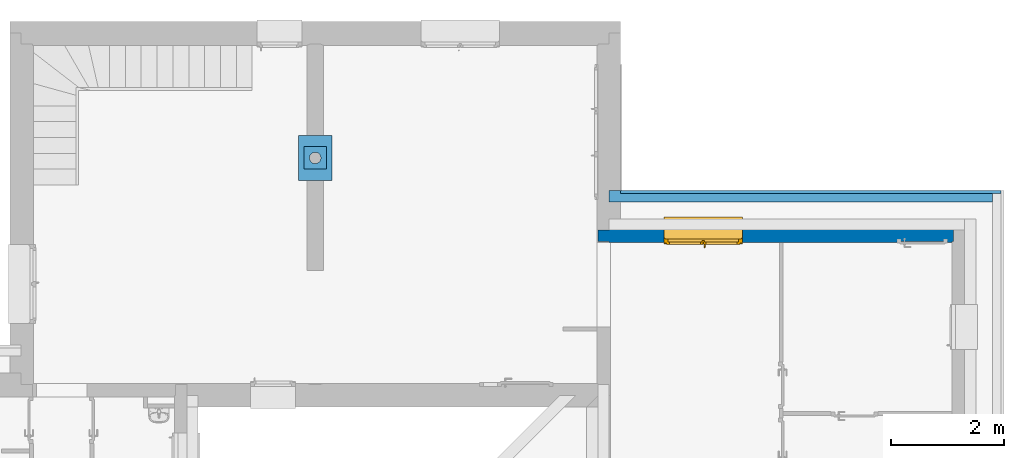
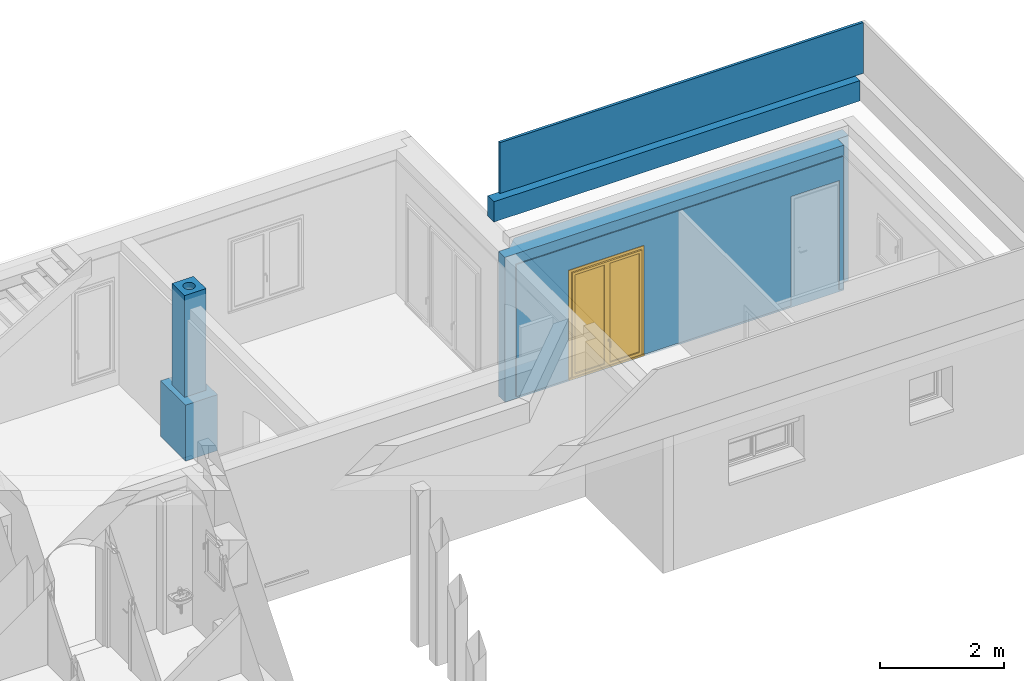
# One storey, part 5 of 16: 3 walls, 2 chimneys, 1 door, 2 openings.
"""IFC4 building model written with IfcOpenShell, lengths in metres."""

from ifc_helpers import new_model, entity, si_unit, converted_unit, frame, frame_2d, origin, origin_with_axes, place, context, subcontext, project, spatial, polyline, rectangle, outline, extrude, clip, bounded_halfspace, closed_shell, open_shell, surface_model, source, transform, mapped, material, layer, layer_set, layer_usage, type_object, element, fill, save


model = new_model("IFC4")

# Units and contexts
model_context = context("Model", 3, precision=1e-05, world=origin())
body_context = subcontext(model_context, "Body", "Model", "MODEL_VIEW")
ifc_project = project(units=[si_unit("LENGTHUNIT", "METRE"), si_unit("AREAUNIT", "SQUARE_METRE"), si_unit("VOLUMEUNIT", "CUBIC_METRE"), si_unit("MASSUNIT", "GRAM", prefix="KILO"), converted_unit("PLANEANGLEUNIT", "DEGREE", entity("IfcPlaneAngleMeasure", 0.0174532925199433), si_unit("PLANEANGLEUNIT", "RADIAN"), dimensions=[0, 0, 0, 0, 0, 0, 0])], contexts=[model_context])

# Building, storey
building_placement = place(None, origin())
building = spatial("IfcBuilding", under=ifc_project, at=building_placement, Name="Projet de Construction", CompositionType="ELEMENT")
storey_placement = place(building_placement, frame((0.0, 0.0, -0.05)))
storey = spatial("IfcBuildingStorey", under=building, at=storey_placement, Name="RDC", CompositionType="ELEMENT", Elevation=-0.05)

# Wall, openings, door
ifc_material_1 = material()
ifc_layer_1 = layer(ifc_material_1, 0.200000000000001)
ifc_material_2 = material()
ifc_layer_2 = layer(ifc_material_2, 0.2)
ifc_material_3 = material()
ifc_layer_3 = layer(ifc_material_3, 0.02)
ifc_layer_set_1 = layer_set([ifc_layer_1, ifc_layer_2, ifc_layer_3])
ifc_layer_usage_1 = layer_usage(ifc_layer_set_1, "AXIS2", "POSITIVE", 0.0)
wall_1_placement = place(storey_placement, frame((9.6640625, 4.63979166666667, 0.0), z_axis=(0.0, 0.0, 1.0), x_axis=(-1.0, 1.48853470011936e-16, 0.0)))
wall_1 = element("IfcWall", 1, at=wall_1_placement, inside=storey, material=ifc_layer_usage_1, context=body_context, shape_type="Clipping", body=[
    clip(clip(extrude(outline(polyline([(-6.51, -0.420000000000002), (-0.400000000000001, -0.420000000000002), (-0.2, -0.220000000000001), (3.2747763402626e-17, -0.220000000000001), (2.97706940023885e-18, -0.0200000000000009), (-0.2, -0.0200000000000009), (-0.2, -9.39265395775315e-16), (-6.29, -9.36288326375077e-16), (-6.29, -0.0200000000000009), (-6.31, -0.0200000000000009), (-6.31, -0.220000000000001), (-6.51, -0.220000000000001), (-6.51, -0.420000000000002)])), frame((6.51, 0.420000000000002, 0.0), z_axis=(0.0, 0.0, 1.0), x_axis=(1.0, 0.0, 0.0)), (0.0, 0.0, 1.0), 2.85), bounded_halfspace(frame((3.265, 0.410000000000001, 0.05), z_axis=(0.0, 0.0, 1.0), x_axis=(1.48853470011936e-16, -1.0, 0.0)), True, origin_with_axes(), polyline([(0.22, 0.42), (0.22, 0.4), (6.31, 0.4), (6.31, 0.42), (0.22, 0.42)]))), bounded_halfspace(frame((3.265, 0.410000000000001, 2.65), z_axis=(0.0, 0.0, -1.0), x_axis=(1.0, -4.88845550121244e-19, 0.0)), True, origin_with_axes(), polyline([(0.22, 0.4), (6.31, 0.4), (6.31, 0.42), (0.22, 0.42), (0.22, 0.4)]))),
])
opening_1_placement = place(wall_1_placement, frame((5.34, 0.200000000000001, 0.05), z_axis=(0.0, -1.0, 0.0), x_axis=(0.0, 0.0, 1.0)))
opening_1 = element("IfcOpeningStandardCase", 2, at=opening_1_placement, cuts=wall_1, Name="Baie de porte", PredefinedType="OPENING", context=body_context, shape_type="SweptSolid", body=[
    extrude(outline(polyline([(0.0, 1.4), (2.15, 1.4), (2.15, 0.0), (0.0, 0.0), (0.0, 1.4)])), origin_with_axes(), (0.0, 0.0, 1.0), 0.200000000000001),
    extrude(outline(polyline([(0.0, 1.4), (2.15, 1.4), (2.15, 0.0), (0.0, 0.0), (0.0, 1.4)])), frame((0.0, 0.0, -0.2), z_axis=(0.0, 0.0, 1.0), x_axis=(1.0, 0.0, 0.0)), (0.0, 0.0, 1.0), 0.2),
    extrude(outline(polyline([(0.0, 1.4), (2.15, 1.4), (2.15, 0.0), (0.0, 0.0), (0.0, 1.4)])), frame((0.0, 0.0, -0.22), z_axis=(0.0, 0.0, 1.0), x_axis=(1.0, 0.0, 0.0)), (0.0, 0.0, 1.0), 0.02),
])
opening_2_placement = place(wall_1_placement, frame((1.2, 0.200000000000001, 0.05), z_axis=(0.0, -1.0, 0.0), x_axis=(0.0, 0.0, 1.0)))
element("IfcOpeningStandardCase", 3, at=opening_2_placement, cuts=wall_1, Name="Baie de porte", PredefinedType="OPENING", context=body_context, shape_type="SweptSolid", body=[
    extrude(outline(polyline([(0.0, 0.9), (2.15, 0.9), (2.15, 0.0), (0.0, 0.0), (0.0, 0.9)])), origin_with_axes(), (0.0, 0.0, 1.0), 0.200000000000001),
    extrude(outline(polyline([(0.0, 0.9), (2.15, 0.9), (2.15, 0.0), (0.0, 0.0), (0.0, 0.9)])), frame((0.0, 0.0, -0.2), z_axis=(0.0, 0.0, 1.0), x_axis=(1.0, 0.0, 0.0)), (0.0, 0.0, 1.0), 0.2),
    extrude(outline(polyline([(0.0, 0.9), (2.15, 0.9), (2.15, 0.0), (0.0, 0.0), (0.0, 0.9)])), frame((0.0, 0.0, -0.22), z_axis=(0.0, 0.0, 1.0), x_axis=(1.0, 0.0, 0.0)), (0.0, 0.0, 1.0), 0.02),
])
ifc_material_4 = material()
door_type = type_object("IfcDoorType", Name="3 vantaux blanc, monté", OperationType="NOTDEFINED", ParameterTakesPrecedence=False, PredefinedType="DOOR")
shared_shape = source(origin_with_axes(), body_context, "Body", "SurfaceModel", [
    surface_model("IfcShellBasedSurfaceModel", [(0.0, 0.0199999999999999, 0.03), (0.0, 0.39, 0.03), (-3.67394039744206e-18, 0.39, 0.06), (-2.44929359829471e-18, 0.0, 0.05), (3.67394039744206e-18, 0.0, 0.0), (3.67394039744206e-18, 0.0199999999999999, 0.0), (1.4, 0.39, 0.0300000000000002), (1.4, 0.0199999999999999, 0.0300000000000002), (1.4, 0.0199999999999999, 1.70530256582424e-16), (1.4, 0.0, 1.70530256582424e-16), (1.4, 0.0, 0.0500000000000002), (1.4, 0.39, 0.0600000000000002)], [closed_shell([[[0, 1, 2, 3, 4, 5]], [[6, 7, 8, 9, 10, 11]], [[1, 0, 7, 6]], [[2, 1, 6, 11]], [[3, 2, 11, 10]], [[4, 3, 10, 9]], [[5, 4, 9, 8]], [[0, 5, 8, 7]]], orient=[[False], [False], [False], [False], [False], [False], [False], [False]])]),
    surface_model("IfcShellBasedSurfaceModel", [(0.0, 0.48, 0.03), (-3.67394039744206e-18, 0.48, 0.06), (-3.67394039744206e-18, 0.43, 0.06), (0.0, 0.43, 0.03), (1.4, 0.43, 0.0300000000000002), (1.4, 0.43, 0.0600000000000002), (1.4, 0.48, 0.0600000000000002), (1.4, 0.48, 0.0300000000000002)], [closed_shell([[[0, 1, 2, 3]], [[4, 5, 6, 7]], [[3, 4, 7, 0]], [[2, 5, 4, 3]], [[1, 6, 5, 2]], [[0, 7, 6, 1]]], orient=[[False], [False], [False], [False], [False], [False]])]),
    surface_model("IfcShellBasedSurfaceModel", [(0.0, 0.39, 2.18), (0.0, 0.39, 1.98), (1.4, 0.39, 1.98), (1.4, 0.39, 2.18), (0.0, 0.19, 1.98), (0.0, 0.19, 2.18), (1.4, 0.19, 2.18), (1.4, 0.19, 1.98)], [closed_shell([[[0, 1, 2, 3]], [[4, 5, 6, 7]], [[1, 0, 5, 4]], [[2, 1, 4, 7]], [[3, 2, 7, 6]], [[0, 3, 6, 5]]], orient=[[False], [False], [False], [False], [False], [False]])]),
    surface_model("IfcShellBasedSurfaceModel", [(0.0, 0.39, 1.98), (0.0, 0.39, 0.03), (0.02, 0.39, 0.03), (0.02, 0.39, 1.98), (0.0, 0.37, 0.03), (0.0, 0.37, 1.98), (0.02, 0.37, 1.98), (0.02, 0.37, 0.03)], [closed_shell([[[0, 1, 2, 3]], [[4, 5, 6, 7]], [[1, 0, 5, 4]], [[2, 1, 4, 7]], [[3, 2, 7, 6]], [[0, 3, 6, 5]]], orient=[[False], [False], [False], [False], [False], [False]])]),
    surface_model("IfcShellBasedSurfaceModel", [(1.38, 0.39, 1.98), (1.38, 0.39, 0.03), (1.4, 0.39, 0.03), (1.4, 0.39, 1.98), (1.38, 0.37, 0.03), (1.38, 0.37, 1.98), (1.4, 0.37, 1.98), (1.4, 0.37, 0.03)], [closed_shell([[[0, 1, 2, 3]], [[4, 5, 6, 7]], [[1, 0, 5, 4]], [[2, 1, 4, 7]], [[3, 2, 7, 6]], [[0, 3, 6, 5]]], orient=[[False], [False], [False], [False], [False], [False]])]),
    surface_model("IfcShellBasedSurfaceModel", [(0.01, 0.385, 1.975), (0.01, 0.385, 1.925), (1.39, 0.385, 1.925), (1.39, 0.385, 1.975), (0.01, 0.375, 1.925), (0.01, 0.375, 1.975), (1.39, 0.375, 1.975), (1.39, 0.375, 1.925)], [closed_shell([[[0, 1, 2, 3]], [[4, 5, 6, 7]], [[1, 0, 5, 4]], [[2, 1, 4, 7]], [[3, 2, 7, 6]], [[0, 3, 6, 5]]], orient=[[False], [False], [False], [False], [False], [False]])]),
    surface_model("IfcShellBasedSurfaceModel", [(0.01, 0.385, 1.92), (0.01, 0.385, 1.87), (1.39, 0.385, 1.87), (1.39, 0.385, 1.92), (0.01, 0.375, 1.87), (0.01, 0.375, 1.92), (1.39, 0.375, 1.92), (1.39, 0.375, 1.87)], [closed_shell([[[0, 1, 2, 3]], [[4, 5, 6, 7]], [[1, 0, 5, 4]], [[2, 1, 4, 7]], [[3, 2, 7, 6]], [[0, 3, 6, 5]]], orient=[[False], [False], [False], [False], [False], [False]])]),
    surface_model("IfcShellBasedSurfaceModel", [(0.01, 0.385, 1.865), (0.01, 0.385, 1.815), (1.39, 0.385, 1.815), (1.39, 0.385, 1.865), (0.01, 0.375, 1.815), (0.01, 0.375, 1.865), (1.39, 0.375, 1.865), (1.39, 0.375, 1.815)], [closed_shell([[[0, 1, 2, 3]], [[4, 5, 6, 7]], [[1, 0, 5, 4]], [[2, 1, 4, 7]], [[3, 2, 7, 6]], [[0, 3, 6, 5]]], orient=[[False], [False], [False], [False], [False], [False]])]),
    surface_model("IfcShellBasedSurfaceModel", [(0.01, 0.385, 1.81), (0.01, 0.385, 1.76), (1.39, 0.385, 1.76), (1.39, 0.385, 1.81), (0.01, 0.375, 1.76), (0.01, 0.375, 1.81), (1.39, 0.375, 1.81), (1.39, 0.375, 1.76)], [closed_shell([[[0, 1, 2, 3]], [[4, 5, 6, 7]], [[1, 0, 5, 4]], [[2, 1, 4, 7]], [[3, 2, 7, 6]], [[0, 3, 6, 5]]], orient=[[False], [False], [False], [False], [False], [False]])]),
    surface_model("IfcShellBasedSurfaceModel", [(0.01, 0.385, 1.755), (0.01, 0.385, 1.705), (1.39, 0.385, 1.705), (1.39, 0.385, 1.755), (0.01, 0.375, 1.705), (0.01, 0.375, 1.755), (1.39, 0.375, 1.755), (1.39, 0.375, 1.705)], [closed_shell([[[0, 1, 2, 3]], [[4, 5, 6, 7]], [[1, 0, 5, 4]], [[2, 1, 4, 7]], [[3, 2, 7, 6]], [[0, 3, 6, 5]]], orient=[[False], [False], [False], [False], [False], [False]])]),
    surface_model("IfcShellBasedSurfaceModel", [(0.01, 0.385, 1.7), (0.01, 0.385, 1.65), (1.39, 0.385, 1.65), (1.39, 0.385, 1.7), (0.01, 0.375, 1.65), (0.01, 0.375, 1.7), (1.39, 0.375, 1.7), (1.39, 0.375, 1.65)], [closed_shell([[[0, 1, 2, 3]], [[4, 5, 6, 7]], [[1, 0, 5, 4]], [[2, 1, 4, 7]], [[3, 2, 7, 6]], [[0, 3, 6, 5]]], orient=[[False], [False], [False], [False], [False], [False]])]),
    surface_model("IfcShellBasedSurfaceModel", [(0.01, 0.385, 1.645), (0.01, 0.385, 1.595), (1.39, 0.385, 1.595), (1.39, 0.385, 1.645), (0.01, 0.375, 1.595), (0.01, 0.375, 1.645), (1.39, 0.375, 1.645), (1.39, 0.375, 1.595)], [closed_shell([[[0, 1, 2, 3]], [[4, 5, 6, 7]], [[1, 0, 5, 4]], [[2, 1, 4, 7]], [[3, 2, 7, 6]], [[0, 3, 6, 5]]], orient=[[False], [False], [False], [False], [False], [False]])]),
    surface_model("IfcShellBasedSurfaceModel", [(0.01, 0.385, 1.59), (0.01, 0.385, 1.54), (1.39, 0.385, 1.54), (1.39, 0.385, 1.59), (0.01, 0.375, 1.54), (0.01, 0.375, 1.59), (1.39, 0.375, 1.59), (1.39, 0.375, 1.54)], [closed_shell([[[0, 1, 2, 3]], [[4, 5, 6, 7]], [[1, 0, 5, 4]], [[2, 1, 4, 7]], [[3, 2, 7, 6]], [[0, 3, 6, 5]]], orient=[[False], [False], [False], [False], [False], [False]])]),
    surface_model("IfcShellBasedSurfaceModel", [(0.01, 0.385, 1.535), (0.01, 0.385, 1.485), (1.39, 0.385, 1.485), (1.39, 0.385, 1.535), (0.01, 0.375, 1.485), (0.01, 0.375, 1.535), (1.39, 0.375, 1.535), (1.39, 0.375, 1.485)], [closed_shell([[[0, 1, 2, 3]], [[4, 5, 6, 7]], [[1, 0, 5, 4]], [[2, 1, 4, 7]], [[3, 2, 7, 6]], [[0, 3, 6, 5]]], orient=[[False], [False], [False], [False], [False], [False]])]),
    surface_model("IfcShellBasedSurfaceModel", [(0.01, 0.385, 1.48), (0.01, 0.385, 1.43), (1.39, 0.385, 1.43), (1.39, 0.385, 1.48), (0.01, 0.375, 1.43), (0.01, 0.375, 1.48), (1.39, 0.375, 1.48), (1.39, 0.375, 1.43)], [closed_shell([[[0, 1, 2, 3]], [[4, 5, 6, 7]], [[1, 0, 5, 4]], [[2, 1, 4, 7]], [[3, 2, 7, 6]], [[0, 3, 6, 5]]], orient=[[False], [False], [False], [False], [False], [False]])]),
    surface_model("IfcShellBasedSurfaceModel", [(0.0, 0.46, 2.18), (0.0, 0.46, 0.03), (0.07, 0.46, 0.03), (0.07, 0.46, 2.18), (0.0, 0.39, 0.03), (0.0, 0.39, 2.18), (0.07, 0.39, 2.18), (0.07, 0.39, 0.03)], [closed_shell([[[0, 1, 2, 3]], [[4, 5, 6, 7]], [[1, 0, 5, 4]], [[2, 1, 4, 7]], [[3, 2, 7, 6]], [[0, 3, 6, 5]]], orient=[[False], [False], [False], [False], [False], [False]])]),
    surface_model("IfcShellBasedSurfaceModel", [(1.33, 0.46, 2.18), (1.33, 0.46, 0.03), (1.4, 0.46, 0.03), (1.4, 0.46, 2.18), (1.33, 0.39, 0.03), (1.33, 0.39, 2.18), (1.4, 0.39, 2.18), (1.4, 0.39, 0.03)], [closed_shell([[[0, 1, 2, 3]], [[4, 5, 6, 7]], [[1, 0, 5, 4]], [[2, 1, 4, 7]], [[3, 2, 7, 6]], [[0, 3, 6, 5]]], orient=[[False], [False], [False], [False], [False], [False]])]),
    surface_model("IfcShellBasedSurfaceModel", [(0.07, 0.46, 0.1), (0.07, 0.46, 0.03), (1.33, 0.46, 0.03), (1.33, 0.46, 0.1), (0.07, 0.39, 0.03), (0.07, 0.39, 0.1), (1.33, 0.39, 0.1), (1.33, 0.39, 0.03)], [closed_shell([[[0, 1, 2, 3]], [[4, 5, 6, 7]], [[1, 0, 5, 4]], [[2, 1, 4, 7]], [[3, 2, 7, 6]], [[0, 3, 6, 5]]], orient=[[False], [False], [False], [False], [False], [False]])]),
    surface_model("IfcShellBasedSurfaceModel", [(0.07, 0.46, 2.18), (0.07, 0.46, 2.11), (1.33, 0.46, 2.11), (1.33, 0.46, 2.18), (0.07, 0.39, 2.11), (0.07, 0.39, 2.18), (1.33, 0.39, 2.18), (1.33, 0.39, 2.11)], [closed_shell([[[0, 1, 2, 3]], [[4, 5, 6, 7]], [[1, 0, 5, 4]], [[2, 1, 4, 7]], [[3, 2, 7, 6]], [[0, 3, 6, 5]]], orient=[[False], [False], [False], [False], [False], [False]])]),
    surface_model("IfcShellBasedSurfaceModel", [(0.05, 0.49, 2.13), (0.05, 0.49, 0.08), (0.1, 0.49, 0.08), (0.1, 0.49, 2.13), (0.05, 0.44, 0.08), (0.05, 0.44, 2.13), (0.1, 0.44, 2.13), (0.1, 0.44, 0.08)], [closed_shell([[[0, 1, 2, 3]], [[4, 5, 6, 7]], [[1, 0, 5, 4]], [[2, 1, 4, 7]], [[3, 2, 7, 6]], [[0, 3, 6, 5]]], orient=[[False], [False], [False], [False], [False], [False]])]),
    surface_model("IfcShellBasedSurfaceModel", [(0.6495, 0.49, 2.13), (0.6495, 0.49, 0.08), (0.6995, 0.49, 0.08), (0.6995, 0.49, 2.13), (0.6495, 0.44, 0.08), (0.6495, 0.44, 2.13), (0.6995, 0.44, 2.13), (0.6995, 0.44, 0.08)], [closed_shell([[[0, 1, 2, 3]], [[4, 5, 6, 7]], [[1, 0, 5, 4]], [[2, 1, 4, 7]], [[3, 2, 7, 6]], [[0, 3, 6, 5]]], orient=[[False], [False], [False], [False], [False], [False]])]),
    surface_model("IfcShellBasedSurfaceModel", [(0.1, 0.49, 0.13), (0.1, 0.49, 0.08), (0.6495, 0.49, 0.08), (0.6495, 0.49, 0.13), (0.1, 0.44, 0.08), (0.1, 0.44, 0.13), (0.6495, 0.44, 0.13), (0.6495, 0.44, 0.08)], [closed_shell([[[0, 1, 2, 3]], [[4, 5, 6, 7]], [[1, 0, 5, 4]], [[2, 1, 4, 7]], [[3, 2, 7, 6]], [[0, 3, 6, 5]]], orient=[[False], [False], [False], [False], [False], [False]])]),
    surface_model("IfcShellBasedSurfaceModel", [(0.1, 0.49, 2.13), (0.1, 0.49, 2.08), (0.6495, 0.49, 2.08), (0.6495, 0.49, 2.13), (0.1, 0.44, 2.08), (0.1, 0.44, 2.13), (0.6495, 0.44, 2.13), (0.6495, 0.44, 2.08)], [closed_shell([[[0, 1, 2, 3]], [[4, 5, 6, 7]], [[1, 0, 5, 4]], [[2, 1, 4, 7]], [[3, 2, 7, 6]], [[0, 3, 6, 5]]], orient=[[False], [False], [False], [False], [False], [False]])]),
    surface_model("IfcShellBasedSurfaceModel", [(0.6745, 0.44, 2.11), (0.6745, 0.44, 0.1), (0.7245, 0.44, 0.1), (0.7245, 0.44, 2.11), (0.6745, 0.415, 0.1), (0.6745, 0.415, 2.11), (0.7245, 0.415, 2.11), (0.7245, 0.415, 0.1)], [closed_shell([[[0, 1, 2, 3]], [[4, 5, 6, 7]], [[1, 0, 5, 4]], [[2, 1, 4, 7]], [[3, 2, 7, 6]], [[0, 3, 6, 5]]], orient=[[False], [False], [False], [False], [False], [False]])]),
    surface_model("IfcShellBasedSurfaceModel", [(0.662, 0.49, 0.6), (0.687, 0.49, 0.6), (0.687, 0.49, 0.56), (0.662, 0.49, 0.56), (0.662, 0.5, 0.56), (0.687, 0.5, 0.56), (0.687, 0.5, 0.6), (0.662, 0.5, 0.6)], [closed_shell([[[0, 1, 2, 3]], [[4, 5, 6, 7]], [[3, 4, 7, 0]], [[2, 5, 4, 3]], [[1, 6, 5, 2]], [[0, 7, 6, 1]]], orient=[[False], [False], [False], [False], [False], [False]])]),
    surface_model("IfcShellBasedSurfaceModel", [(0.6845, 0.5, 0.58), (0.683160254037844, 0.5, 0.575), (0.6795, 0.5, 0.571339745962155), (0.6745, 0.5, 0.57), (0.6695, 0.5, 0.571339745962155), (0.665839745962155, 0.5, 0.575), (0.6645, 0.5, 0.58), (0.665839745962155, 0.5, 0.585), (0.6695, 0.5, 0.588660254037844), (0.6745, 0.5, 0.59), (0.6795, 0.5, 0.588660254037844), (0.683160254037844, 0.5, 0.585), (0.683160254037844, 0.545, 0.585), (0.6845, 0.54, 0.58), (0.6795, 0.548660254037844, 0.588660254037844), (0.6745, 0.55, 0.59), (0.6695, 0.548660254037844, 0.588660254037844), (0.665839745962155, 0.545, 0.585), (0.6645, 0.54, 0.58), (0.665839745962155, 0.535, 0.575), (0.6695, 0.531339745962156, 0.571339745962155), (0.6745, 0.53, 0.57), (0.6795, 0.531339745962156, 0.571339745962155), (0.683160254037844, 0.535, 0.575), (0.6845, 0.54, 0.465), (0.683160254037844, 0.545, 0.465), (0.6795, 0.548660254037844, 0.465), (0.6745, 0.55, 0.465), (0.6695, 0.548660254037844, 0.465), (0.665839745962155, 0.545, 0.465), (0.6645, 0.54, 0.465), (0.665839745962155, 0.535, 0.465), (0.6695, 0.531339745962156, 0.465), (0.6745, 0.53, 0.465), (0.6795, 0.531339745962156, 0.465), (0.683160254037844, 0.535, 0.465)], [closed_shell([[[0, 1, 2, 3, 4, 5, 6, 7, 8, 9, 10, 11]], [[0, 11, 12, 13]], [[11, 10, 14, 12]], [[10, 9, 15, 14]], [[9, 8, 16, 15]], [[8, 7, 17, 16]], [[7, 6, 18, 17]], [[6, 5, 19, 18]], [[5, 4, 20, 19]], [[4, 3, 21, 20]], [[3, 2, 22, 21]], [[2, 1, 23, 22]], [[1, 0, 13, 23]], [[24, 25, 26, 27, 28, 29, 30, 31, 32, 33, 34, 35]], [[13, 12, 25, 24]], [[12, 14, 26, 25]], [[14, 15, 27, 26]], [[15, 16, 28, 27]], [[16, 17, 29, 28]], [[17, 18, 30, 29]], [[18, 19, 31, 30]], [[19, 20, 32, 31]], [[20, 21, 33, 32]], [[21, 22, 34, 33]], [[22, 23, 35, 34]], [[23, 13, 24, 35]]], orient=[[False], [False], [False], [False], [False], [False], [False], [False], [False], [False], [False], [False], [False], [False], [False], [False], [False], [False], [False], [False], [False], [False], [False], [False], [False], [False]])]),
    surface_model("IfcShellBasedSurfaceModel", [(0.7005, 0.49, 2.13), (0.7005, 0.49, 0.08), (0.7505, 0.49, 0.08), (0.7505, 0.49, 2.13), (0.7005, 0.44, 0.08), (0.7005, 0.44, 2.13), (0.7505, 0.44, 2.13), (0.7505, 0.44, 0.08)], [closed_shell([[[0, 1, 2, 3]], [[4, 5, 6, 7]], [[1, 0, 5, 4]], [[2, 1, 4, 7]], [[3, 2, 7, 6]], [[0, 3, 6, 5]]], orient=[[False], [False], [False], [False], [False], [False]])]),
    surface_model("IfcShellBasedSurfaceModel", [(1.3, 0.49, 2.13), (1.3, 0.49, 0.08), (1.35, 0.49, 0.08), (1.35, 0.49, 2.13), (1.3, 0.44, 0.08), (1.3, 0.44, 2.13), (1.35, 0.44, 2.13), (1.35, 0.44, 0.08)], [closed_shell([[[0, 1, 2, 3]], [[4, 5, 6, 7]], [[1, 0, 5, 4]], [[2, 1, 4, 7]], [[3, 2, 7, 6]], [[0, 3, 6, 5]]], orient=[[False], [False], [False], [False], [False], [False]])]),
    surface_model("IfcShellBasedSurfaceModel", [(0.7505, 0.49, 0.13), (0.7505, 0.49, 0.08), (1.3, 0.49, 0.08), (1.3, 0.49, 0.13), (0.7505, 0.44, 0.08), (0.7505, 0.44, 0.13), (1.3, 0.44, 0.13), (1.3, 0.44, 0.08)], [closed_shell([[[0, 1, 2, 3]], [[4, 5, 6, 7]], [[1, 0, 5, 4]], [[2, 1, 4, 7]], [[3, 2, 7, 6]], [[0, 3, 6, 5]]], orient=[[False], [False], [False], [False], [False], [False]])]),
    surface_model("IfcShellBasedSurfaceModel", [(0.7505, 0.49, 2.13), (0.7505, 0.49, 2.08), (1.3, 0.49, 2.08), (1.3, 0.49, 2.13), (0.7505, 0.44, 2.08), (0.7505, 0.44, 2.13), (1.3, 0.44, 2.13), (1.3, 0.44, 2.08)], [closed_shell([[[0, 1, 2, 3]], [[4, 5, 6, 7]], [[1, 0, 5, 4]], [[2, 1, 4, 7]], [[3, 2, 7, 6]], [[0, 3, 6, 5]]], orient=[[False], [False], [False], [False], [False], [False]])]),
    surface_model("IfcShellBasedSurfaceModel", [(0.1, 0.465, 0.13), (0.6495, 0.465, 0.13), (0.6495, 0.465, 2.08), (0.1, 0.465, 2.08)], [open_shell([[[0, 1, 2, 3]]], orient=[[False]])]),
    surface_model("IfcShellBasedSurfaceModel", [(0.7505, 0.465, 0.13), (1.3, 0.465, 0.13), (1.3, 0.465, 2.08), (0.7505, 0.465, 2.08)], [open_shell([[[0, 1, 2, 3]]], orient=[[False]])]),
])
door_placement = place(opening_1_placement, frame((-0.03, 1.4, 0.229999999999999), z_axis=(1.0, 0.0, 0.0), x_axis=(0.0, -1.0, -2.63887900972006e-17)))
door = element("IfcDoor", 4, at=door_placement, inside=storey, type_object=door_type, material=ifc_material_4, Name="3 vantaux blanc, monté", OverallHeight=2.15, OverallWidth=1.4, context=body_context, shape_type="MappedRepresentation", body=[
    mapped(shared_shape, transform((0.0, 0.0, 0.0), x_axis=(1.0, 0.0, 0.0), y_axis=(0.0, 1.0, 0.0), z_axis=(0.0, 0.0, 1.0), scale=1.0)),
])
fill(opening_1, door)

# Walls
ifc_material_5 = material(Name="Bois & Verre")
ifc_layer_4 = layer(ifc_material_5, 0.05)
ifc_layer_set_2 = layer_set([ifc_layer_4])
ifc_layer_usage_2 = layer_usage(ifc_layer_set_2, "AXIS2", "POSITIVE", 0.0)
wall_2_placement = place(storey_placement, frame((10.3140625, 5.13979166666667, 3.45), z_axis=(0.0, 0.0, 1.0), x_axis=(-1.0, 1.34540636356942e-16, 0.0)))
element("IfcWall", 5, at=wall_2_placement, inside=storey, material=ifc_layer_usage_2, context=body_context, shape_type="SweptSolid", body=[
    extrude(rectangle(XDim=6.76, YDim=0.05, at=frame_2d((3.38, 0.025), x_axis=(1.0, 0.0))), origin_with_axes(), (0.0, 0.0, 1.0), 1.0),
])
ifc_material_6 = material()
ifc_layer_5 = layer(ifc_material_6, 0.2)
ifc_layer_set_3 = layer_set([ifc_layer_5])
ifc_layer_usage_3 = layer_usage(ifc_layer_set_3, "AXIS2", "POSITIVE", 0.0)
wall_3_placement = place(storey_placement, frame((10.1640625, 5.13979166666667, 3.05), z_axis=(0.0, 0.0, 1.0), x_axis=(-1.0, 1.33552819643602e-16, 0.0)))
element("IfcWall", 6, at=wall_3_placement, inside=storey, material=ifc_layer_usage_3, context=body_context, shape_type="SweptSolid", body=[
    extrude(rectangle(XDim=6.81, YDim=0.2, at=frame_2d((3.405, 0.1), x_axis=(1.0, 0.0))), origin_with_axes(), (0.0, 0.0, 1.0), 0.4),
])

# Chimneys
ifc_material_7 = material()
chimney_1_placement = place(storey_placement, frame((-2.0659375, 5.51979166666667, 1.15)))
element("IfcChimney", 7, at=chimney_1_placement, inside=storey, material=ifc_material_7, PredefinedType="USERDEFINED", context=body_context, shape_type="SweptSolid", body=[
    extrude(outline(polyline([(0.0, 0.0), (0.4, 0.0), (0.4, 0.4), (0.0, 0.4), (0.0, 0.0)]), holes=[polyline([(0.184161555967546, 0.3), (0.215838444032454, 0.3), (0.245964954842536, 0.290211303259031), (0.271592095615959, 0.271592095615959), (0.290211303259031, 0.245964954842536), (0.3, 0.215838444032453), (0.3, 0.184161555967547), (0.290211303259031, 0.154035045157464), (0.271592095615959, 0.128407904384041), (0.245964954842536, 0.10978869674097), (0.215838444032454, 0.1), (0.184161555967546, 0.1), (0.154035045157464, 0.10978869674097), (0.128407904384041, 0.128407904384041), (0.109788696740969, 0.154035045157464), (0.1, 0.184161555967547), (0.1, 0.215838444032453), (0.109788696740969, 0.245964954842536), (0.128407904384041, 0.271592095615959), (0.154035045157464, 0.290211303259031), (0.184161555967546, 0.3)])]), origin_with_axes(), (0.0, 0.0, 1.0), 2.0),
])
ifc_material_8 = material()
chimney_2_placement = place(storey_placement, frame((-2.1659375, 5.31979166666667, 0.05)))
element("IfcChimney", 8, at=chimney_2_placement, inside=storey, material=ifc_material_8, PredefinedType="USERDEFINED", context=body_context, shape_type="SweptSolid", body=[
    extrude(outline(polyline([(0.0, 0.0), (0.6, 0.0), (0.6, 0.8), (0.0, 0.8), (0.0, 0.0)]), holes=[polyline([(0.284161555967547, 0.5), (0.315838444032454, 0.5), (0.345964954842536, 0.490211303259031), (0.371592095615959, 0.471592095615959), (0.390211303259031, 0.445964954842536), (0.4, 0.415838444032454), (0.4, 0.384161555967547), (0.390211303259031, 0.354035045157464), (0.371592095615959, 0.328407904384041), (0.345964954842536, 0.309788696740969), (0.315838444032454, 0.3), (0.284161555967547, 0.3), (0.254035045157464, 0.309788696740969), (0.228407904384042, 0.328407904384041), (0.20978869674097, 0.354035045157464), (0.2, 0.384161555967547), (0.2, 0.415838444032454), (0.20978869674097, 0.445964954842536), (0.228407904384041, 0.471592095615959), (0.254035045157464, 0.490211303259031), (0.284161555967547, 0.5)])]), origin_with_axes(), (0.0, 0.0, 1.0), 1.1),
])

save(model, "model.ifc")
